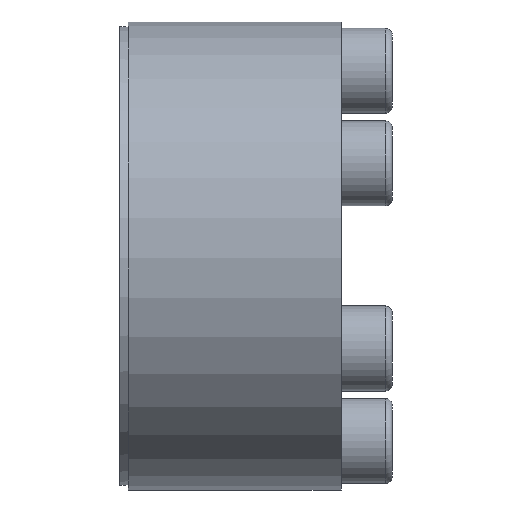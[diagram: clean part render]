
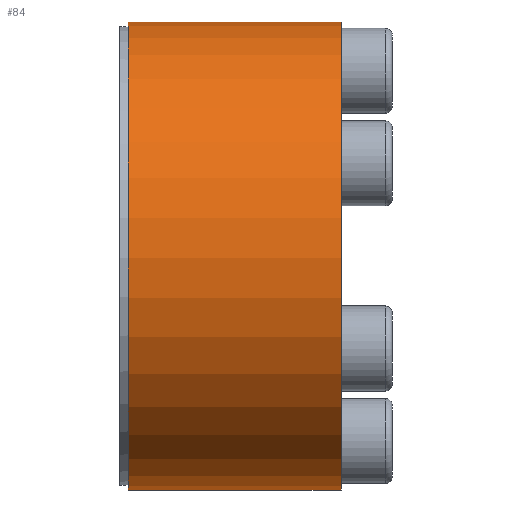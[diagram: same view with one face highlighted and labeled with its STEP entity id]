
A CAD part, left-side view. The second image highlights one B-rep face of the part: STEP entity #84.
In plain terms, the highlighted cylindrical face has radius 27.5 mm (diameter 55 mm), a partial arc.
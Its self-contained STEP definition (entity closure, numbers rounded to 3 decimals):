
#84 = ADVANCED_FACE( '', ( #169 ), #170, .T. );
#169 = FACE_OUTER_BOUND( '', #261, .T. );
#170 = CYLINDRICAL_SURFACE( '', #262, 27.5 );
#261 = EDGE_LOOP( '', ( #432, #433, #434, #435 ) );
#262 = AXIS2_PLACEMENT_3D( '', #436, #437, #438 );
#432 = ORIENTED_EDGE( '', *, *, #558, .T. );
#433 = ORIENTED_EDGE( '', *, *, #552, .T. );
#434 = ORIENTED_EDGE( '', *, *, #568, .T. );
#435 = ORIENTED_EDGE( '', *, *, #565, .T. );
#436 = CARTESIAN_POINT( '', ( 0., -60., 0. ) );
#437 = DIRECTION( '', ( 0., -1., 0. ) );
#438 = DIRECTION( '', ( 0., 0., 1. ) );
#552 = EDGE_CURVE( '', #687, #685, #688, .F. );
#558 = EDGE_CURVE( '', #695, #687, #696, .T. );
#565 = EDGE_CURVE( '', #704, #695, #705, .T. );
#568 = EDGE_CURVE( '', #685, #704, #708, .T. );
#685 = VERTEX_POINT( '', #926 );
#687 = VERTEX_POINT( '', #929 );
#688 = LINE( '', #930, #931 );
#695 = VERTEX_POINT( '', #940 );
#696 = CIRCLE( '', #941, 27.5 );
#704 = VERTEX_POINT( '', #951 );
#705 = LINE( '', #952, #953 );
#708 = CIRCLE( '', #957, 27.5 );
#926 = CARTESIAN_POINT( '', ( 14.341, -13., 23.465 ) );
#929 = CARTESIAN_POINT( '', ( 14.341, 12., 23.465 ) );
#930 = CARTESIAN_POINT( '', ( 14.341, -60., 23.465 ) );
#931 = VECTOR( '', #1047, 1000. );
#940 = CARTESIAN_POINT( '', ( 13.15, 12., 24.152 ) );
#941 = AXIS2_PLACEMENT_3D( '', #1053, #1054, #1055 );
#951 = CARTESIAN_POINT( '', ( 13.15, -13., 24.152 ) );
#952 = CARTESIAN_POINT( '', ( 13.15, -60., 24.152 ) );
#953 = VECTOR( '', #1061, 1000. );
#957 = AXIS2_PLACEMENT_3D( '', #1063, #1064, #1065 );
#1047 = DIRECTION( '', ( 0., 1., 0. ) );
#1053 = CARTESIAN_POINT( '', ( 0., 12., 0. ) );
#1054 = DIRECTION( '', ( 0., -1., 0. ) );
#1055 = DIRECTION( '', ( 0., 0., -1. ) );
#1061 = DIRECTION( '', ( 0., 1., 0. ) );
#1063 = CARTESIAN_POINT( '', ( 0., -13., 0. ) );
#1064 = DIRECTION( '', ( 0., 1., 0. ) );
#1065 = DIRECTION( '', ( 0., 0., 1. ) );
